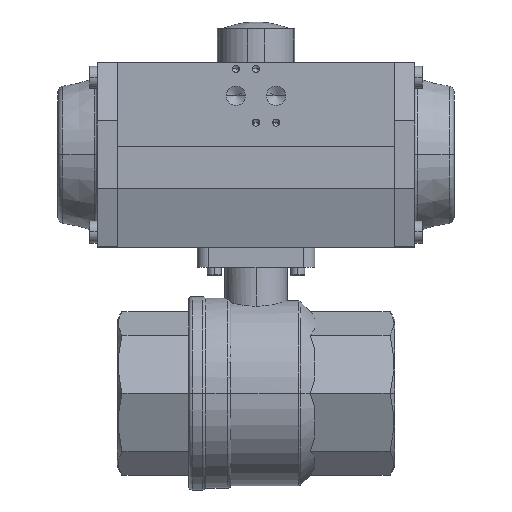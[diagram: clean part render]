
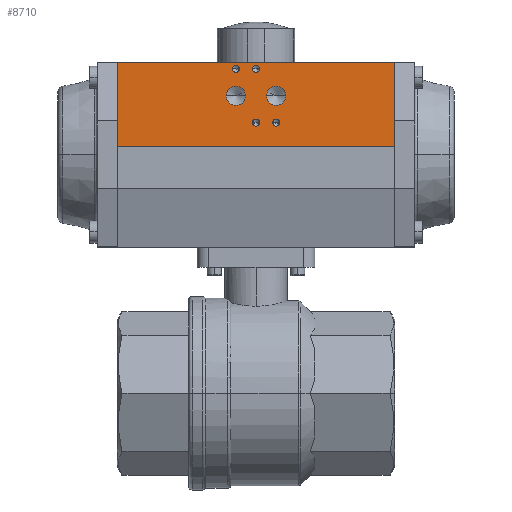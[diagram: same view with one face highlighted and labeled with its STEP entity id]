
A CAD part, top view. The second image highlights one B-rep face of the part: STEP entity #8710.
In plain terms, the highlighted planar face has unit normal (0, 0, 1) as drawn and (1, 0, 0) by its records, which use the part's own axes.
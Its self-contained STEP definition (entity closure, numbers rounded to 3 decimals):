
#709 = LINE ( 'NONE', #710, #9457 ) ;
#710 = CARTESIAN_POINT ( 'NONE',  ( 53., 5., 82.5 ) ) ;
#711 = DIRECTION ( 'NONE',  ( 0., 1., 0. ) ) ;
#928 = CARTESIAN_POINT ( 'NONE',  ( 53., 35., -12. ) ) ;
#929 = DIRECTION ( 'NONE',  ( 1., 0., 0. ) ) ;
#930 = DIRECTION ( 'NONE',  ( 0., 0., -1. ) ) ;
#939 = CARTESIAN_POINT ( 'NONE',  ( 53., 51., 0. ) ) ;
#940 = DIRECTION ( 'NONE',  ( 1., 0., 0. ) ) ;
#941 = DIRECTION ( 'NONE',  ( 0., 0., -1. ) ) ;
#988 = CARTESIAN_POINT ( 'NONE',  ( 53., 35., 12. ) ) ;
#989 = DIRECTION ( 'NONE',  ( 1., 0., 0. ) ) ;
#990 = DIRECTION ( 'NONE',  ( 0., 0., -1. ) ) ;
#1441 = CARTESIAN_POINT ( 'NONE',  ( 53., 5., -82.5 ) ) ;
#1445 = FACE_BOUND ( 'NONE', #5686, .T. ) ;
#1448 = FACE_BOUND ( 'NONE', #5690, .T. ) ;
#1449 = FACE_BOUND ( 'NONE', #5691, .T. ) ;
#1450 = FACE_BOUND ( 'NONE', #5689, .T. ) ;
#1451 = FACE_OUTER_BOUND ( 'NONE', #5693, .T. ) ;
#1452 = FACE_BOUND ( 'NONE', #5692, .T. ) ;
#1453 = PLANE ( 'NONE',  #6565 ) ;
#1454 = FACE_BOUND ( 'NONE', #5685, .T. ) ;
#1457 = DIRECTION ( 'NONE',  ( 1., 0., 0. ) ) ;
#1458 = DIRECTION ( 'NONE',  ( 0., 0., -1. ) ) ;
#2026 = CARTESIAN_POINT ( 'NONE',  ( 53., 19., -12. ) ) ;
#2027 = DIRECTION ( 'NONE',  ( 1., 0., 0. ) ) ;
#2028 = DIRECTION ( 'NONE',  ( 0., 0., -1. ) ) ;
#3992 = CARTESIAN_POINT ( 'NONE',  ( 53., 51., 12. ) ) ;
#3993 = DIRECTION ( 'NONE',  ( 1., 0., 0. ) ) ;
#3994 = DIRECTION ( 'NONE',  ( 0., 0., -1. ) ) ;
#4008 = CARTESIAN_POINT ( 'NONE',  ( 53., 35., 12. ) ) ;
#4009 = DIRECTION ( 'NONE',  ( 1., 0., 0. ) ) ;
#4010 = DIRECTION ( 'NONE',  ( 0., 0., -1. ) ) ;
#4016 = CARTESIAN_POINT ( 'NONE',  ( 53., 51., 0. ) ) ;
#4017 = DIRECTION ( 'NONE',  ( 1., 0., 0. ) ) ;
#4018 = DIRECTION ( 'NONE',  ( 0., 0., -1. ) ) ;
#4019 = LINE ( 'NONE', #4020, #8954 ) ;
#4020 = CARTESIAN_POINT ( 'NONE',  ( 53., 5., -82.5 ) ) ;
#4026 = CARTESIAN_POINT ( 'NONE',  ( 53., 19., 0. ) ) ;
#4027 = DIRECTION ( 'NONE',  ( 1., 0., 0. ) ) ;
#4028 = DIRECTION ( 'NONE',  ( 0., 0., -1. ) ) ;
#4029 = DIRECTION ( 'NONE',  ( 0., 0., 1. ) ) ;
#4043 = CARTESIAN_POINT ( 'NONE',  ( 53., 19., -12. ) ) ;
#4044 = DIRECTION ( 'NONE',  ( 1., 0., 0. ) ) ;
#4045 = DIRECTION ( 'NONE',  ( 0., 0., -1. ) ) ;
#4050 = LINE ( 'NONE', #4051, #8941 ) ;
#4051 = CARTESIAN_POINT ( 'NONE',  ( 53., 55., -82.5 ) ) ;
#4052 = DIRECTION ( 'NONE',  ( 0., 0., 1. ) ) ;
#4061 = CARTESIAN_POINT ( 'NONE',  ( 53., 35., -12. ) ) ;
#4062 = DIRECTION ( 'NONE',  ( 1., 0., 0. ) ) ;
#4063 = DIRECTION ( 'NONE',  ( 0., 0., -1. ) ) ;
#4507 = VERTEX_POINT ( 'NONE', #10521 ) ;
#4508 = VERTEX_POINT ( 'NONE', #10522 ) ;
#4517 = VERTEX_POINT ( 'NONE', #10531 ) ;
#4521 = VERTEX_POINT ( 'NONE', #10535 ) ;
#4522 = VERTEX_POINT ( 'NONE', #10536 ) ;
#4540 = VERTEX_POINT ( 'NONE', #10554 ) ;
#4543 = VERTEX_POINT ( 'NONE', #10557 ) ;
#4546 = VERTEX_POINT ( 'NONE', #10560 ) ;
#4551 = VERTEX_POINT ( 'NONE', #10565 ) ;
#4552 = VERTEX_POINT ( 'NONE', #10566 ) ;
#4556 = VERTEX_POINT ( 'NONE', #10570 ) ;
#4557 = VERTEX_POINT ( 'NONE', #10571 ) ;
#4773 = VERTEX_POINT ( 'NONE', #7825 ) ;
#4780 = VERTEX_POINT ( 'NONE', #7832 ) ;
#4819 = VERTEX_POINT ( 'NONE', #7871 ) ;
#4830 = VERTEX_POINT ( 'NONE', #7882 ) ;
#5557 = LINE ( 'NONE', #5558, #9502 ) ;
#5558 = CARTESIAN_POINT ( 'NONE',  ( 53., 5., -82.5 ) ) ;
#5559 = DIRECTION ( 'NONE',  ( 0., 1., 0. ) ) ;
#5685 = EDGE_LOOP ( 'NONE', ( #11335, #11334 ) ) ;
#5686 = EDGE_LOOP ( 'NONE', ( #11331, #11330 ) ) ;
#5689 = EDGE_LOOP ( 'NONE', ( #11315, #11316 ) ) ;
#5690 = EDGE_LOOP ( 'NONE', ( #11337, #11336 ) ) ;
#5691 = EDGE_LOOP ( 'NONE', ( #11329, #11328 ) ) ;
#5692 = EDGE_LOOP ( 'NONE', ( #11333, #11332 ) ) ;
#5693 = EDGE_LOOP ( 'NONE', ( #11313, #11314, #11311, #11312 ) ) ;
#6352 = AXIS2_PLACEMENT_3D ( 'NONE', #2026, #2027, #2028 ) ;
#6355 = CIRCLE ( 'NONE', #6352, 2.1 ) ;
#6565 = AXIS2_PLACEMENT_3D ( 'NONE', #1441, #1457, #1458 ) ;
#6862 = EDGE_CURVE ( 'NONE', #4507, #4508, #9667, .T. ) ;
#6874 = EDGE_CURVE ( 'NONE', #4546, #4543, #9656, .T. ) ;
#7001 = EDGE_CURVE ( 'NONE', #4830, #4780, #5557, .T. ) ;
#7039 = EDGE_CURVE ( 'NONE', #4773, #4819, #709, .T. ) ;
#7101 = EDGE_CURVE ( 'NONE', #4556, #4540, #9379, .T. ) ;
#7104 = EDGE_CURVE ( 'NONE', #4551, #4552, #9376, .T. ) ;
#7118 = EDGE_CURVE ( 'NONE', #4521, #4522, #9357, .T. ) ;
#7717 = CARTESIAN_POINT ( 'NONE',  ( 53., 51., 12. ) ) ;
#7718 = DIRECTION ( 'NONE',  ( 1., 0., 0. ) ) ;
#7719 = DIRECTION ( 'NONE',  ( 0., 0., -1. ) ) ;
#7763 = CARTESIAN_POINT ( 'NONE',  ( 53., 19., 0. ) ) ;
#7764 = DIRECTION ( 'NONE',  ( 1., 0., 0. ) ) ;
#7765 = DIRECTION ( 'NONE',  ( 0., 0., -1. ) ) ;
#7825 = CARTESIAN_POINT ( 'NONE',  ( 53., 5., 82.5 ) ) ;
#7832 = CARTESIAN_POINT ( 'NONE',  ( 53., 55., -82.5 ) ) ;
#7871 = CARTESIAN_POINT ( 'NONE',  ( 53., 55., 82.5 ) ) ;
#7882 = CARTESIAN_POINT ( 'NONE',  ( 53., 5., -82.5 ) ) ;
#8479 = EDGE_CURVE ( 'NONE', #4508, #4507, #8973, .T. ) ;
#8485 = EDGE_CURVE ( 'NONE', #4522, #4521, #8967, .T. ) ;
#8487 = EDGE_CURVE ( 'NONE', #4552, #4551, #8962, .T. ) ;
#8490 = EDGE_CURVE ( 'NONE', #4543, #4546, #8955, .T. ) ;
#8491 = EDGE_CURVE ( 'NONE', #4830, #4773, #4019, .T. ) ;
#8496 = EDGE_CURVE ( 'NONE', #4557, #4517, #8945, .T. ) ;
#8499 = EDGE_CURVE ( 'NONE', #4780, #4819, #4050, .T. ) ;
#8502 = EDGE_CURVE ( 'NONE', #4540, #4556, #8938, .T. ) ;
#8710 = ADVANCED_FACE ( 'NONE', ( #1449, #1445, #1452, #1454, #1448, #1450, #1451 ), #1453, .T. ) ;
#8813 = EDGE_CURVE ( 'NONE', #4517, #4557, #6355, .T. ) ;
#8936 = AXIS2_PLACEMENT_3D ( 'NONE', #4061, #4062, #4063 ) ;
#8938 = CIRCLE ( 'NONE', #8936, 5.722 ) ;
#8941 = VECTOR ( 'NONE', #4052, 1000. ) ;
#8943 = AXIS2_PLACEMENT_3D ( 'NONE', #4043, #4044, #4045 ) ;
#8945 = CIRCLE ( 'NONE', #8943, 2.1 ) ;
#8953 = AXIS2_PLACEMENT_3D ( 'NONE', #4026, #4027, #4028 ) ;
#8954 = VECTOR ( 'NONE', #4029, 1000. ) ;
#8955 = CIRCLE ( 'NONE', #8953, 2.1 ) ;
#8959 = AXIS2_PLACEMENT_3D ( 'NONE', #4016, #4017, #4018 ) ;
#8962 = CIRCLE ( 'NONE', #8959, 2.1 ) ;
#8963 = AXIS2_PLACEMENT_3D ( 'NONE', #4008, #4009, #4010 ) ;
#8967 = CIRCLE ( 'NONE', #8963, 5.722 ) ;
#8971 = AXIS2_PLACEMENT_3D ( 'NONE', #3992, #3993, #3994 ) ;
#8973 = CIRCLE ( 'NONE', #8971, 2.1 ) ;
#9353 = AXIS2_PLACEMENT_3D ( 'NONE', #988, #989, #990 ) ;
#9357 = CIRCLE ( 'NONE', #9353, 5.722 ) ;
#9371 = AXIS2_PLACEMENT_3D ( 'NONE', #939, #940, #941 ) ;
#9376 = CIRCLE ( 'NONE', #9371, 2.1 ) ;
#9377 = AXIS2_PLACEMENT_3D ( 'NONE', #928, #929, #930 ) ;
#9379 = CIRCLE ( 'NONE', #9377, 5.722 ) ;
#9457 = VECTOR ( 'NONE', #711, 1000. ) ;
#9502 = VECTOR ( 'NONE', #5559, 1000. ) ;
#9651 = AXIS2_PLACEMENT_3D ( 'NONE', #7763, #7764, #7765 ) ;
#9656 = CIRCLE ( 'NONE', #9651, 2.1 ) ;
#9665 = AXIS2_PLACEMENT_3D ( 'NONE', #7717, #7718, #7719 ) ;
#9667 = CIRCLE ( 'NONE', #9665, 2.1 ) ;
#10521 = CARTESIAN_POINT ( 'NONE',  ( 53., 51., 14.1 ) ) ;
#10522 = CARTESIAN_POINT ( 'NONE',  ( 53., 51., 9.9 ) ) ;
#10531 = CARTESIAN_POINT ( 'NONE',  ( 53., 19., -9.9 ) ) ;
#10535 = CARTESIAN_POINT ( 'NONE',  ( 53., 35., 17.722 ) ) ;
#10536 = CARTESIAN_POINT ( 'NONE',  ( 53., 35., 6.277 ) ) ;
#10554 = CARTESIAN_POINT ( 'NONE',  ( 53., 35., -17.722 ) ) ;
#10557 = CARTESIAN_POINT ( 'NONE',  ( 53., 19., -2.1 ) ) ;
#10560 = CARTESIAN_POINT ( 'NONE',  ( 53., 19., 2.1 ) ) ;
#10565 = CARTESIAN_POINT ( 'NONE',  ( 53., 51., 2.1 ) ) ;
#10566 = CARTESIAN_POINT ( 'NONE',  ( 53., 51., -2.1 ) ) ;
#10570 = CARTESIAN_POINT ( 'NONE',  ( 53., 35., -6.277 ) ) ;
#10571 = CARTESIAN_POINT ( 'NONE',  ( 53., 19., -14.1 ) ) ;
#11311 = ORIENTED_EDGE ( 'NONE', *, *, #8491, .F. ) ;
#11312 = ORIENTED_EDGE ( 'NONE', *, *, #7001, .T. ) ;
#11313 = ORIENTED_EDGE ( 'NONE', *, *, #8499, .T. ) ;
#11314 = ORIENTED_EDGE ( 'NONE', *, *, #7039, .F. ) ;
#11315 = ORIENTED_EDGE ( 'NONE', *, *, #8485, .F. ) ;
#11316 = ORIENTED_EDGE ( 'NONE', *, *, #7118, .F. ) ;
#11328 = ORIENTED_EDGE ( 'NONE', *, *, #6862, .F. ) ;
#11329 = ORIENTED_EDGE ( 'NONE', *, *, #8479, .F. ) ;
#11330 = ORIENTED_EDGE ( 'NONE', *, *, #8813, .F. ) ;
#11331 = ORIENTED_EDGE ( 'NONE', *, *, #8496, .F. ) ;
#11332 = ORIENTED_EDGE ( 'NONE', *, *, #6874, .F. ) ;
#11333 = ORIENTED_EDGE ( 'NONE', *, *, #8490, .F. ) ;
#11334 = ORIENTED_EDGE ( 'NONE', *, *, #7104, .F. ) ;
#11335 = ORIENTED_EDGE ( 'NONE', *, *, #8487, .F. ) ;
#11336 = ORIENTED_EDGE ( 'NONE', *, *, #7101, .F. ) ;
#11337 = ORIENTED_EDGE ( 'NONE', *, *, #8502, .F. ) ;
